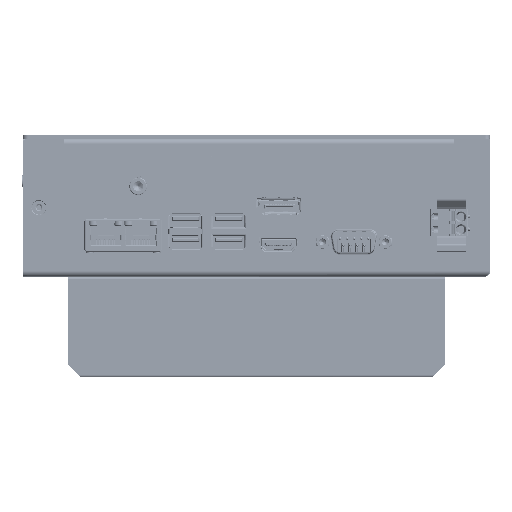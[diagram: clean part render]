
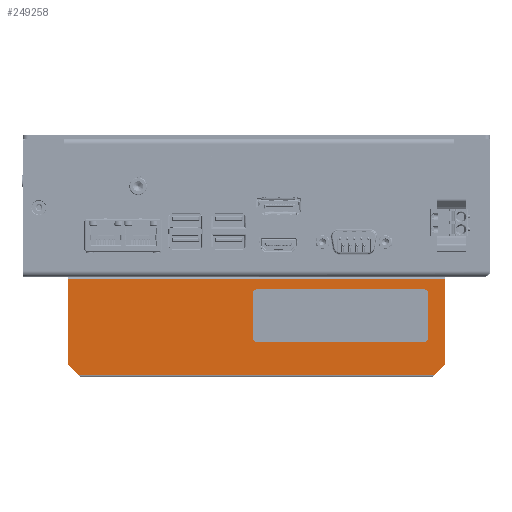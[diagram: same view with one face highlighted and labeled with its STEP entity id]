
A CAD part, front view. The second image highlights one B-rep face of the part: STEP entity #249258.
In plain terms, the highlighted planar face has unit normal (0, -1, 0).
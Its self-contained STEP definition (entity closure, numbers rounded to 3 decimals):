
#520=FACE_BOUND('',#22295,.T.);
#9533=FACE_OUTER_BOUND('',#22294,.T.);
#22294=EDGE_LOOP('',(#159793,#159794,#159795,#159796,#159797,#159798));
#22295=EDGE_LOOP('',(#159799,#159800,#159801,#159802,#159803,#159804,#159805,
#159806));
#35777=CIRCLE('',#262514,2.);
#35778=CIRCLE('',#262515,2.);
#35779=CIRCLE('',#262516,2.);
#35780=CIRCLE('',#262517,2.);
#40797=LINE('',#350208,#68552);
#40826=LINE('',#350315,#68581);
#40860=LINE('',#350433,#68615);
#40928=LINE('',#350587,#68683);
#40930=LINE('',#350591,#68685);
#40931=LINE('',#350592,#68686);
#40932=LINE('',#350595,#68687);
#40933=LINE('',#350599,#68688);
#40934=LINE('',#350603,#68689);
#40935=LINE('',#350607,#68690);
#68552=VECTOR('',#280760,10.);
#68581=VECTOR('',#280847,10.);
#68615=VECTOR('',#280943,38.25);
#68683=VECTOR('',#281069,10.);
#68685=VECTOR('',#281073,10.);
#68686=VECTOR('',#281074,38.25);
#68687=VECTOR('',#281075,10.);
#68688=VECTOR('',#281078,10.);
#68689=VECTOR('',#281081,10.);
#68690=VECTOR('',#281084,10.);
#96792=VERTEX_POINT('',#350198);
#96796=VERTEX_POINT('',#350206);
#96843=VERTEX_POINT('',#350311);
#96845=VERTEX_POINT('',#350314);
#96898=VERTEX_POINT('',#350431);
#96956=VERTEX_POINT('',#350590);
#96957=VERTEX_POINT('',#350593);
#96958=VERTEX_POINT('',#350594);
#96959=VERTEX_POINT('',#350596);
#96960=VERTEX_POINT('',#350598);
#96961=VERTEX_POINT('',#350600);
#96962=VERTEX_POINT('',#350602);
#96963=VERTEX_POINT('',#350604);
#96964=VERTEX_POINT('',#350606);
#121496=EDGE_CURVE('',#96792,#96796,#40797,.T.);
#121544=EDGE_CURVE('',#96845,#96843,#40826,.T.);
#121599=EDGE_CURVE('',#96796,#96898,#40860,.T.);
#121685=EDGE_CURVE('',#96843,#96792,#40928,.T.);
#121687=EDGE_CURVE('',#96956,#96898,#40930,.T.);
#121688=EDGE_CURVE('',#96956,#96845,#40931,.T.);
#121689=EDGE_CURVE('',#96957,#96958,#40932,.T.);
#121690=EDGE_CURVE('',#96958,#96959,#35777,.T.);
#121691=EDGE_CURVE('',#96959,#96960,#40933,.T.);
#121692=EDGE_CURVE('',#96960,#96961,#35778,.T.);
#121693=EDGE_CURVE('',#96961,#96962,#40934,.T.);
#121694=EDGE_CURVE('',#96962,#96963,#35779,.T.);
#121695=EDGE_CURVE('',#96963,#96964,#40935,.T.);
#121696=EDGE_CURVE('',#96964,#96957,#35780,.T.);
#159793=ORIENTED_EDGE('',*,*,#121496,.T.);
#159794=ORIENTED_EDGE('',*,*,#121599,.T.);
#159795=ORIENTED_EDGE('',*,*,#121687,.F.);
#159796=ORIENTED_EDGE('',*,*,#121688,.T.);
#159797=ORIENTED_EDGE('',*,*,#121544,.T.);
#159798=ORIENTED_EDGE('',*,*,#121685,.T.);
#159799=ORIENTED_EDGE('',*,*,#121689,.T.);
#159800=ORIENTED_EDGE('',*,*,#121690,.T.);
#159801=ORIENTED_EDGE('',*,*,#121691,.T.);
#159802=ORIENTED_EDGE('',*,*,#121692,.T.);
#159803=ORIENTED_EDGE('',*,*,#121693,.T.);
#159804=ORIENTED_EDGE('',*,*,#121694,.T.);
#159805=ORIENTED_EDGE('',*,*,#121695,.T.);
#159806=ORIENTED_EDGE('',*,*,#121696,.T.);
#227554=PLANE('',#262513);
#249258=ADVANCED_FACE('',(#9533,#520),#227554,.T.);
#262513=AXIS2_PLACEMENT_3D('',#350589,#281071,#281072);
#262514=AXIS2_PLACEMENT_3D('',#350597,#281076,#281077);
#262515=AXIS2_PLACEMENT_3D('',#350601,#281079,#281080);
#262516=AXIS2_PLACEMENT_3D('',#350605,#281082,#281083);
#262517=AXIS2_PLACEMENT_3D('',#350608,#281085,#281086);
#280760=DIRECTION('',(0.707,0.,0.707));
#280847=DIRECTION('',(0.707,0.,-0.707));
#280943=DIRECTION('',(0.,0.,1.));
#281069=DIRECTION('',(1.,0.,0.));
#281071=DIRECTION('center_axis',(0.,-1.,0.));
#281072=DIRECTION('ref_axis',(-1.,0.,0.));
#281073=DIRECTION('',(1.,0.,0.));
#281074=DIRECTION('',(0.,0.,-1.));
#281075=DIRECTION('',(1.,0.,0.));
#281076=DIRECTION('center_axis',(0.,1.,0.));
#281077=DIRECTION('ref_axis',(-1.,0.,0.));
#281078=DIRECTION('',(0.,0.,-1.));
#281079=DIRECTION('center_axis',(0.,1.,0.));
#281080=DIRECTION('ref_axis',(0.,0.,
1.));
#281081=DIRECTION('',(-1.,0.,0.));
#281082=DIRECTION('center_axis',(0.,1.,0.));
#281083=DIRECTION('ref_axis',(1.,0.,0.));
#281084=DIRECTION('',(0.,0.,1.));
#281085=DIRECTION('center_axis',(0.,1.,0.));
#281086=DIRECTION('ref_axis',(0.,0.,
-1.));
#350198=CARTESIAN_POINT('',(70.75,-50.,-39.25));
#350206=CARTESIAN_POINT('',(75.,-50.,-35.));
#350208=CARTESIAN_POINT('',(33.938,-50.,-76.063));
#350311=CARTESIAN_POINT('',(-70.75,-50.,-39.25));
#350314=CARTESIAN_POINT('',(-75.,-50.,-35.));
#350315=CARTESIAN_POINT('',(-73.937,-50.,-36.062));
#350431=CARTESIAN_POINT('',(75.,-50.,-1.));
#350433=CARTESIAN_POINT('',(75.,-50.,-39.25));
#350587=CARTESIAN_POINT('',(-75.,-50.,-39.25));
#350589=CARTESIAN_POINT('Origin',(-75.,-50.,-39.25));
#350590=CARTESIAN_POINT('',(-75.,-50.,-1.));
#350591=CARTESIAN_POINT('',(-75.,-50.,-1.));
#350592=CARTESIAN_POINT('',(-75.,-50.,-1.));
#350593=CARTESIAN_POINT('',(0.5,-50.,-5.));
#350594=CARTESIAN_POINT('',(66.5,-50.,-5.));
#350595=CARTESIAN_POINT('',(-4.25,-50.,-5.));
#350596=CARTESIAN_POINT('',(68.5,-50.,-7.));
#350597=CARTESIAN_POINT('Origin',(66.5,-50.,-7.));
#350598=CARTESIAN_POINT('',(68.5,-50.,-24.));
#350599=CARTESIAN_POINT('',(68.5,-50.,-31.625));
#350600=CARTESIAN_POINT('',(66.5,-50.,-26.));
#350601=CARTESIAN_POINT('Origin',(66.5,-50.,-24.));
#350602=CARTESIAN_POINT('',(0.5,-50.,-26.));
#350603=CARTESIAN_POINT('',(-37.25,-50.,-26.));
#350604=CARTESIAN_POINT('',(-1.5,-50.,-24.));
#350605=CARTESIAN_POINT('Origin',(0.5,-50.,-24.));
#350606=CARTESIAN_POINT('',(-1.5,-50.,-7.));
#350607=CARTESIAN_POINT('',(-1.5,-50.,-23.125));
#350608=CARTESIAN_POINT('Origin',(0.5,-50.,-7.));
